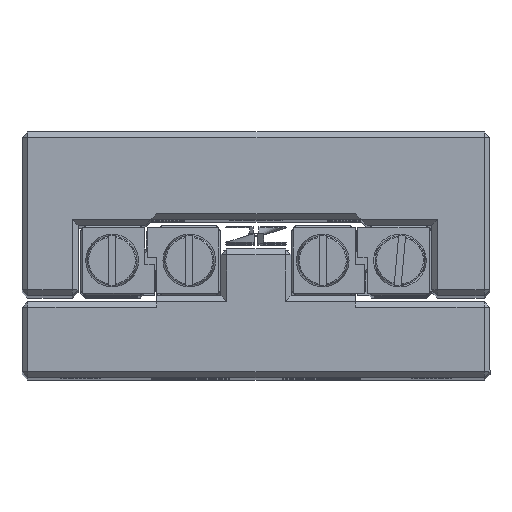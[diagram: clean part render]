
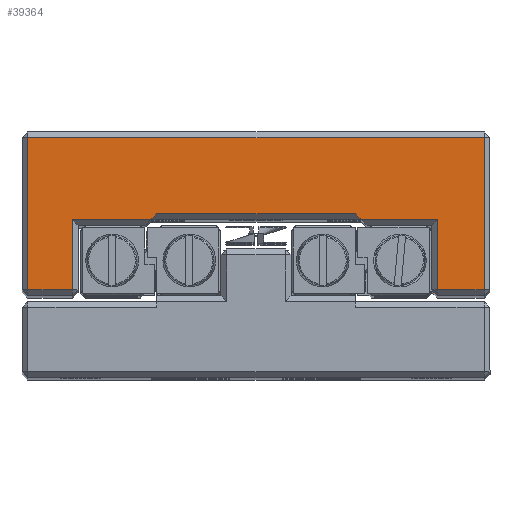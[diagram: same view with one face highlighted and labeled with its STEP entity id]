
A CAD part, top view. The second image highlights one B-rep face of the part: STEP entity #39364.
In plain terms, the highlighted planar face has unit normal (0, 0, 1).
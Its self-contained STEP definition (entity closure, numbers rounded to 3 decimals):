
#2526=PLANE('',#42673);
#4521=FACE_OUTER_BOUND('',#6908,.T.);
#6908=EDGE_LOOP('',(#33272,#33273,#33274,#33275,#33276,#33277,#33278,#33279,
#33280,#33281,#33282,#33283));
#10152=LINE('',#64646,#13548);
#10168=LINE('',#64672,#13564);
#10179=LINE('',#64689,#13575);
#10182=LINE('',#64694,#13578);
#10186=LINE('',#64703,#13582);
#10189=LINE('',#64712,#13585);
#10190=LINE('',#64718,#13586);
#10194=LINE('',#64728,#13590);
#10204=LINE('',#64752,#13600);
#10206=LINE('',#64756,#13602);
#10207=LINE('',#64757,#13603);
#10208=LINE('',#64758,#13604);
#13548=VECTOR('',#51314,10.);
#13564=VECTOR('',#51340,10.);
#13575=VECTOR('',#51359,10.);
#13578=VECTOR('',#51364,10.);
#13582=VECTOR('',#51376,10.);
#13585=VECTOR('',#51389,10.);
#13586=VECTOR('',#51398,10.);
#13590=VECTOR('',#51408,10.);
#13600=VECTOR('',#51428,10.);
#13602=VECTOR('',#51432,10.);
#13603=VECTOR('',#51433,10.);
#13604=VECTOR('',#51434,10.);
#18486=VERTEX_POINT('',#64643);
#18487=VERTEX_POINT('',#64645);
#18492=VERTEX_POINT('',#64670);
#18494=VERTEX_POINT('',#64687);
#18495=VERTEX_POINT('',#64692);
#18496=VERTEX_POINT('',#64701);
#18497=VERTEX_POINT('',#64710);
#18498=VERTEX_POINT('',#64717);
#18500=VERTEX_POINT('',#64725);
#18501=VERTEX_POINT('',#64727);
#18510=VERTEX_POINT('',#64750);
#18511=VERTEX_POINT('',#64755);
#23562=EDGE_CURVE('',#18486,#18487,#10152,.T.);
#23578=EDGE_CURVE('',#18492,#18486,#10168,.T.);
#23589=EDGE_CURVE('',#18494,#18492,#10179,.T.);
#23592=EDGE_CURVE('',#18495,#18494,#10182,.T.);
#23596=EDGE_CURVE('',#18496,#18495,#10186,.T.);
#23599=EDGE_CURVE('',#18497,#18496,#10189,.T.);
#23600=EDGE_CURVE('',#18498,#18497,#10190,.T.);
#23604=EDGE_CURVE('',#18500,#18501,#10194,.T.);
#23616=EDGE_CURVE('',#18510,#18498,#10204,.T.);
#23618=EDGE_CURVE('',#18487,#18511,#10206,.T.);
#23619=EDGE_CURVE('',#18501,#18510,#10207,.T.);
#23620=EDGE_CURVE('',#18511,#18500,#10208,.T.);
#33272=ORIENTED_EDGE('',*,*,#23618,.F.);
#33273=ORIENTED_EDGE('',*,*,#23562,.F.);
#33274=ORIENTED_EDGE('',*,*,#23578,.F.);
#33275=ORIENTED_EDGE('',*,*,#23589,.F.);
#33276=ORIENTED_EDGE('',*,*,#23592,.F.);
#33277=ORIENTED_EDGE('',*,*,#23596,.F.);
#33278=ORIENTED_EDGE('',*,*,#23599,.F.);
#33279=ORIENTED_EDGE('',*,*,#23600,.F.);
#33280=ORIENTED_EDGE('',*,*,#23616,.F.);
#33281=ORIENTED_EDGE('',*,*,#23619,.F.);
#33282=ORIENTED_EDGE('',*,*,#23604,.F.);
#33283=ORIENTED_EDGE('',*,*,#23620,.F.);
#39364=ADVANCED_FACE('',(#4521),#2526,.F.);
#42673=AXIS2_PLACEMENT_3D('',#64754,#51430,#51431);
#51314=DIRECTION('',(0.,1.,0.));
#51340=DIRECTION('',(-1.,0.,0.));
#51359=DIRECTION('',(0.,-1.,0.));
#51364=DIRECTION('',(1.,0.,0.));
#51376=DIRECTION('',(0.,1.,0.));
#51389=DIRECTION('',(-1.,0.,0.));
#51398=DIRECTION('',(0.,-1.,0.));
#51408=DIRECTION('',(-1.,0.,0.));
#51428=DIRECTION('',(-1.,0.,0.));
#51430=DIRECTION('center_axis',(0.,0.,
-1.));
#51431=DIRECTION('ref_axis',(-1.,0.,0.));
#51432=DIRECTION('',(-1.,0.,0.));
#51433=DIRECTION('',(-0.707,-0.707,0.));
#51434=DIRECTION('',(-0.707,0.707,0.));
#64643=CARTESIAN_POINT('',(-18.197,7.5,35.));
#64645=CARTESIAN_POINT('',(-18.197,13.5,35.));
#64646=CARTESIAN_POINT('',(-18.197,10.5,35.));
#64670=CARTESIAN_POINT('',(-14.197,7.5,35.));
#64672=CARTESIAN_POINT('',(-23.697,7.5,35.));
#64687=CARTESIAN_POINT('',(-14.197,20.5,35.));
#64689=CARTESIAN_POINT('',(-14.197,17.5,35.));
#64692=CARTESIAN_POINT('',(-53.197,20.5,35.));
#64694=CARTESIAN_POINT('',(-43.697,20.5,35.));
#64701=CARTESIAN_POINT('',(-53.197,7.5,35.));
#64703=CARTESIAN_POINT('',(-53.197,10.5,35.));
#64710=CARTESIAN_POINT('',(-49.397,7.5,35.));
#64712=CARTESIAN_POINT('',(-41.297,7.5,35.));
#64717=CARTESIAN_POINT('',(-49.397,13.5,35.));
#64718=CARTESIAN_POINT('',(-49.397,13.5,35.));
#64725=CARTESIAN_POINT('',(-25.197,14.,35.));
#64727=CARTESIAN_POINT('',(-42.197,14.,35.));
#64728=CARTESIAN_POINT('',(-29.197,14.,35.));
#64750=CARTESIAN_POINT('',(-42.697,13.5,35.));
#64752=CARTESIAN_POINT('',(-38.447,13.5,35.));
#64754=CARTESIAN_POINT('Origin',(-33.697,14.,35.));
#64755=CARTESIAN_POINT('',(-24.697,13.5,35.));
#64756=CARTESIAN_POINT('',(-26.197,13.5,35.));
#64757=CARTESIAN_POINT('',(-42.697,13.5,35.));
#64758=CARTESIAN_POINT('',(-24.197,13.,35.));
